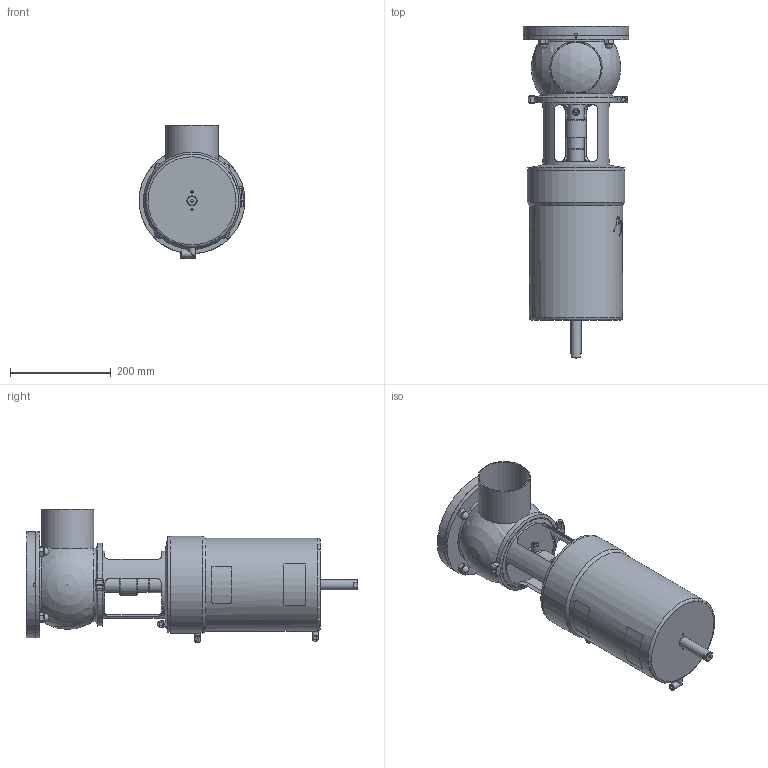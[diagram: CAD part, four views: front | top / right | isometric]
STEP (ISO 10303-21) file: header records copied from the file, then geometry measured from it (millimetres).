
FILE_DESCRIPTION (( 'STEP AP214' ), '1' );
FILE_NAME ('INNOVA T L W DIN 100 WITH FLANGE_10.252.16.0005.STEP', '2024-08-21T11:29:17', ( '' ), ( '' ), 'SwSTEP 2.0', 'SolidWorks 2023', '' );
FILE_SCHEMA (( 'AUTOMOTIVE_DESIGN' ));
Length unit declared in the file: millimetre
Products named in the file (6): 10.240.15.0001_DN 100; 10.240.15.0006_DIN 100; 10.252.15.0001_DIN 100; 10.248.15.0003_DIN 100 _ OD 4"; 10.250.15.0002_Type T T3; INNOVA T L W DIN 100 WITH FLANGE_10.252.16.0005
Assembly tree (5 placements, depth 2):
  INNOVA T L W DIN 100 WITH FLANGE_10.252.16.0005
    10.240.15.0006_DIN 100
    10.248.15.0003_DIN 100 _ OD 4"
    10.252.15.0001_DIN 100
    10.250.15.0002_Type T T3
    10.240.15.0001_DN 100
Bounding box: 210 x 659.4 x 265 mm (x, y, z)
Volume: 12329335.7 mm3; surface area: 699925.3 mm2
Topology: 5 solids, 5 shells, 418 faces, 1099 edges, 718 vertices
Faces by surface type: plane 198, cylinder 110, bspline 82, cone 21, sphere 6, torus 1
Full cylindrical faces by diameter (mm): 4.2 x2, 5 x1, 6 x1, 6.15 x3, 8 x2, 10.5 x3, 12 x1, 12.5 x9, 14 x2, 16 x4, 20 x1, 30.5 x2, 32 x1, 41 x1, 100 x1, 104 x1, 133 x1, 134 x1, 144.5 x2, 156.5 x3, 168 x1, 185 x1, 193 x1, 210 x1
Entity records: 24015 total; most frequent: CARTESIAN_POINT 12877, ORIENTED_EDGE 1984, DIRECTION 1591, EDGE_CURVE 992, VERTEX_POINT 686, AXIS2_PLACEMENT_3D 596, EDGE_LOOP 530, FACE_OUTER_BOUND 467
